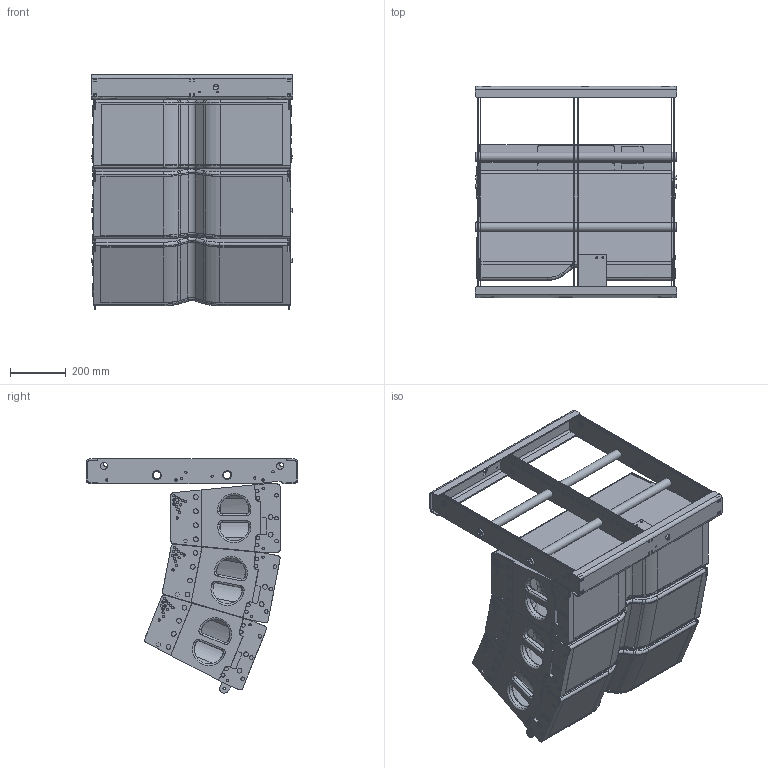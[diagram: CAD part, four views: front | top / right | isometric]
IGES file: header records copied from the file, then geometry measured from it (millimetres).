
Global section: file name: LA28 3 Box ARRAY v2; native system: unknown; preprocessor: unknown; author: unknown; organization: unknown; date: 20230121.233854; units: inch
Bounding box: 726.62 x 762 x 844.22 mm (x, y, z)
Volume: 175339414.1 mm3; surface area: 5297314.5 mm2
Topology: 18 solids, 18 shells, 1889 faces, 5249 edges, 3528 vertices
Faces by surface type: bspline 1889
